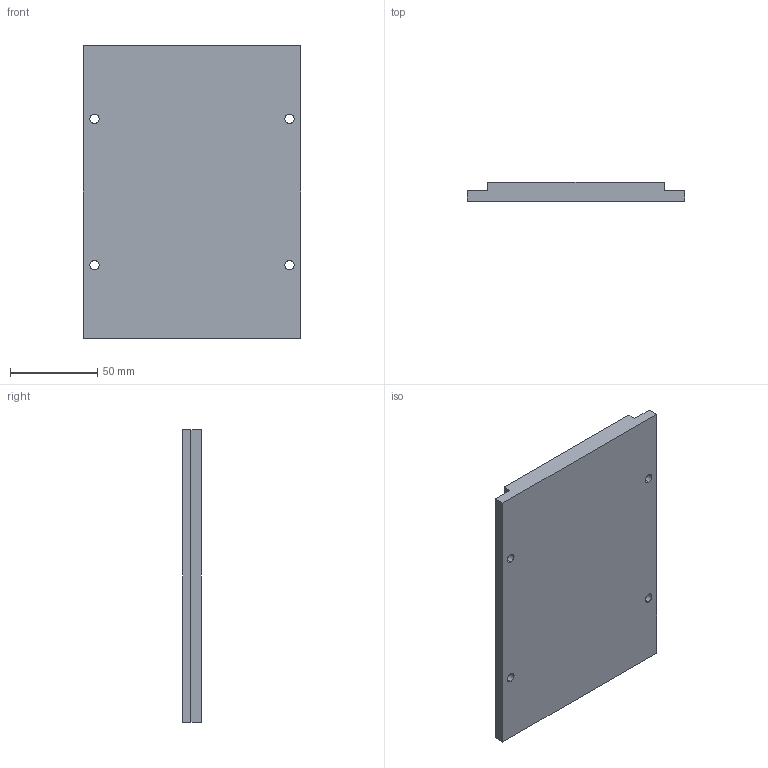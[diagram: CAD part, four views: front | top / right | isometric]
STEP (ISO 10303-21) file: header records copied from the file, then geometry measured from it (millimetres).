
FILE_DESCRIPTION (( 'STEP AP214' ), '1' );
FILE_NAME ('TLM-125-L168.STEP', '2022-05-12T08:07:33', ( 'Microsoft' ), ( 'Microsoft' ), 'SwSTEP 2.0', 'SolidWorks 2016', '' );
FILE_SCHEMA (( 'AUTOMOTIVE_DESIGN' ));
Length unit declared in the file: millimetre
Products named in the file (1): TLM-125-L168
Bounding box: 125 x 10.8 x 168 mm (x, y, z)
Volume: 206745.8 mm3; surface area: 48416.4 mm2
Topology: 1 solids, 1 shells, 30 faces, 72 edges, 48 vertices
Faces by surface type: cylinder 16, plane 14
Entity records: 938 total; most frequent: DIRECTION 166, CARTESIAN_POINT 151, ORIENTED_EDGE 144, EDGE_CURVE 72, AXIS2_PLACEMENT_3D 63, VERTEX_POINT 48, EDGE_LOOP 42, VECTOR 40
